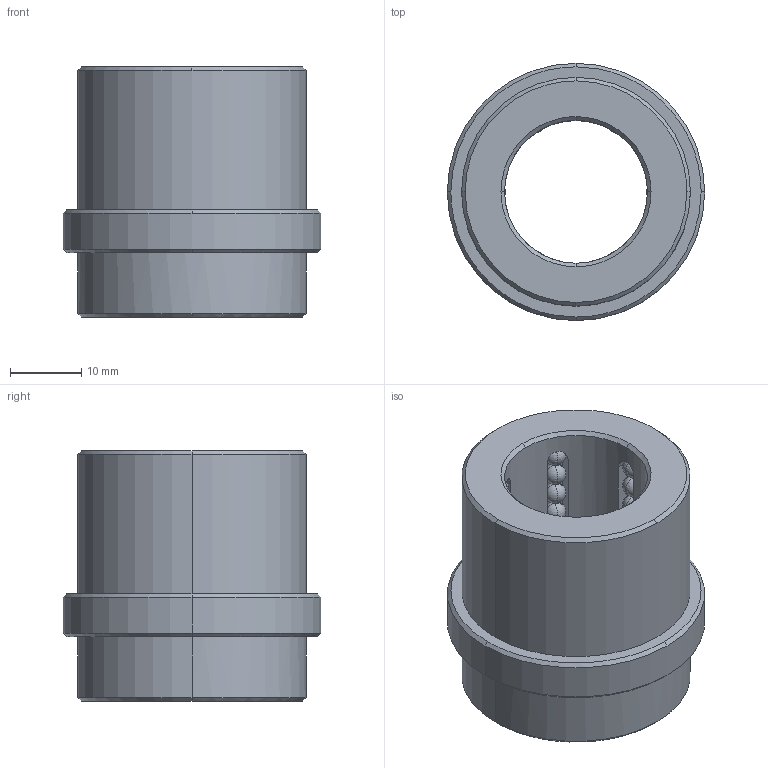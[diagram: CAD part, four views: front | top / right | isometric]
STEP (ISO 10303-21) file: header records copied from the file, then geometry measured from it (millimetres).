
FILE_DESCRIPTION(('CATIA V5 STEP Exchange'),'2;1');
FILE_NAME('C:\Users\Raffaele\Desktop\3D BOLEX\3D FILES CF BOLEX\2-BUSH REF 802\B8022026.stp','2019-06-19T13:57:54+00:00',('none'),('none'),'CATIA Version 5 Release 20 GA (IN-10)','CATIA V5 STEP AP203','none');
FILE_SCHEMA(('CONFIG_CONTROL_DESIGN'));
Length unit declared in the file: millimetre
Products named in the file (1): B8022026
Bounding box: 36 x 36 x 35 mm (x, y, z)
Volume: 17655.9 mm3; surface area: 9651.7 mm2
Topology: 55 solids, 55 shells, 282 faces, 810 edges, 212 vertices
Faces by surface type: sphere 216, cone 24, plane 22, cylinder 20
Entity records: 5866 total; most frequent: CARTESIAN_POINT 1305, DIRECTION 909, ORIENTED_EDGE 756, AXIS2_PLACEMENT_3D 546, EDGE_CURVE 378, EDGE_LOOP 290, ADVANCED_FACE 282, FACE_OUTER_BOUND 282
